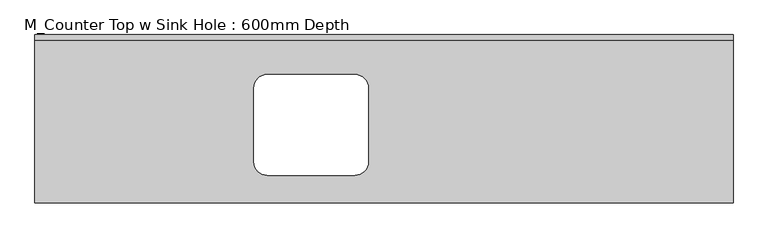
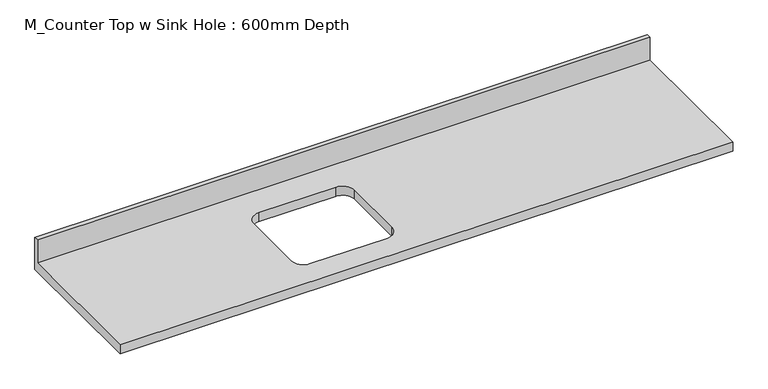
"""IFC4 building model written with IfcOpenShell, lengths in millimetres: furniture geometry, M_Counter Top w Sink Hole : 600mm Depth."""

from ifc_helpers import new_model, si_unit, frame, origin, place, context, project, spatial, polyline, circle_curve, source, transform, mapped, element, save
from ifc_brep_helpers import plane_surface, revolved_surface, advanced_brep


def m_counter_top_w_sink_hole_600mm_depth_1fb56bb9(model_context):
    return source(origin(), model_context, "Body", "AdvancedBrep", [
        advanced_brep(
        [(-1200.4622951, -625.0, 900.0), (1390.5377049, -625.0, 900.0), (1390.5377049, -19.05, 900.0), (-1200.4622951, -19.05, 900.0), (-337.3622951, -147.3, 900.0), (-13.5622951, -147.3, 900.0), (37.2377049, -198.1, 900.0), (37.2377049, -471.9, 900.0), (-13.5622951, -522.7, 900.0), (-337.3622951, -522.7, 900.0), (-388.1622951, -471.9, 900.0), (-388.1622951, -198.1, 900.0), (1390.5377049, 0.0, 860.0), (1390.5377049, -625.0, 860.0), (-1200.4622951, -625.0, 860.0), (-1200.4622951, 0.0, 860.0), (-13.5622951, -147.3, 860.0), (-337.3622951, -147.3, 860.0), (-388.1622951, -198.1, 860.0), (-388.1622951, -471.9, 860.0), (-337.3622951, -522.7, 860.0), (-13.5622951, -522.7, 860.0), (37.2377049, -471.9, 860.0), (37.2377049, -198.1, 860.0), (-1200.4622951, 0.0, 1001.6), (1390.5377049, 0.0, 1001.6), (-1200.4622951, -19.05, 1001.6), (1390.5377049, -19.05, 1001.6)],
        [
            (0, 1),
            (1, 2),
            (2, 3),
            (3, 0),
            (4, 5),
            (5, 6, circle_curve(frame((-13.5622951, -198.1, 900.0), z_axis=(0.0, 0.0, -1.0), x_axis=(1.0, 0.0, 0.0)), 50.8)),
            (6, 7),
            (7, 8, circle_curve(frame((-13.5622951, -471.9, 900.0), z_axis=(0.0, 0.0, -1.0), x_axis=(1.0, 0.0, 0.0)), 50.8)),
            (8, 9),
            (9, 10, circle_curve(frame((-337.3622951, -471.9, 900.0), z_axis=(0.0, 0.0, -1.0), x_axis=(1.0, 0.0, 0.0)), 50.8)),
            (10, 11),
            (11, 4, circle_curve(frame((-337.3622951, -198.1, 900.0), z_axis=(0.0, 0.0, -1.0), x_axis=(1.0, 0.0, 0.0)), 50.8)),
            (12, 13),
            (13, 14),
            (14, 15),
            (15, 12),
            (16, 17),
            (17, 18, circle_curve(frame((-337.3622951, -198.1, 860.0), z_axis=(0.0, 0.0, 1.0), x_axis=(1.0, 0.0, 0.0)), 50.8)),
            (18, 19),
            (19, 20, circle_curve(frame((-337.3622951, -471.9, 860.0), z_axis=(0.0, 0.0, 1.0), x_axis=(1.0, 0.0, 0.0)), 50.8)),
            (20, 21),
            (21, 22, circle_curve(frame((-13.5622951, -471.9, 860.0), z_axis=(0.0, 0.0, 1.0), x_axis=(1.0, 0.0, 0.0)), 50.8)),
            (22, 23),
            (23, 16, circle_curve(frame((-13.5622951, -198.1, 860.0), z_axis=(0.0, 0.0, 1.0), x_axis=(1.0, 0.0, 0.0)), 50.8)),
            (15, 24),
            (24, 25),
            (25, 12),
            (14, 0),
            (3, 26),
            (26, 24),
            (13, 1),
            (25, 27),
            (27, 2),
            (26, 27),
            (4, 17),
            (16, 5),
            (11, 18),
            (10, 19),
            (9, 20),
            (8, 21),
            (7, 22),
            (6, 23),
        ],
        [
            plane_surface(frame((-1200.4622951, 0.0, 900.0), z_axis=(0.0, 0.0, 1.0), x_axis=(-1.0, 0.0, 0.0))),
            plane_surface(frame((-1200.4622951, 0.0, 860.0), z_axis=(0.0, 0.0, -1.0), x_axis=(1.0, 0.0, 0.0))),
            plane_surface(frame((1390.5377049, 0.0, 900.0), z_axis=(0.0, 1.0, 0.0), x_axis=(0.0, 0.0, -1.0))),
            plane_surface(frame((-1200.4622951, 0.0, 900.0), z_axis=(-1.0, 0.0, 0.0), x_axis=(0.0, 0.0, -1.0))),
            plane_surface(frame((-1200.4622951, -625.0, 900.0), z_axis=(0.0, -1.0, 0.0), x_axis=(0.0, 0.0, -1.0))),
            plane_surface(frame((1390.5377049, -625.0, 900.0), z_axis=(1.0, 0.0, 0.0), x_axis=(0.0, 0.0, -1.0))),
            plane_surface(frame((-1200.4622951, 0.0, 1001.6), z_axis=(0.0, 0.0, 1.0), x_axis=(0.0, -1.0, 0.0))),
            plane_surface(frame((-1200.4622951, -19.05, 1001.6), z_axis=(0.0, -1.0, 0.0), x_axis=(0.0, 0.0, -1.0))),
            plane_surface(frame((-13.5622951, -147.3, 900.0), z_axis=(0.0, -1.0, 0.0), x_axis=(0.0, 0.0, -1.0))),
            revolved_surface(polyline([(-286.5622951, -198.1, 900.0), (-286.5622951, -198.1, 860.0)]), (-337.3622951, -198.1, 860.0), (0.0, 0.0, 1.0)),
            plane_surface(frame((-388.1622951, -198.1, 900.0), z_axis=(1.0, 0.0, 0.0), x_axis=(0.0, 0.0, -1.0))),
            revolved_surface(polyline([(-286.5622951, -471.9, 900.0), (-286.5622951, -471.9, 860.0)]), (-337.3622951, -471.9, 860.0), (0.0, 0.0, 1.0)),
            plane_surface(frame((-337.3622951, -522.7, 900.0), z_axis=(0.0, 1.0, 0.0), x_axis=(0.0, 0.0, -1.0))),
            revolved_surface(polyline([(37.2377049, -471.9, 900.0), (37.2377049, -471.9, 860.0)]), (-13.5622951, -471.9, 860.0), (0.0, 0.0, 1.0)),
            plane_surface(frame((37.2377049, -471.9, 900.0), z_axis=(-1.0, 0.0, 0.0), x_axis=(0.0, 0.0, -1.0))),
            revolved_surface(polyline([(37.2377049, -198.1, 900.0), (37.2377049, -198.1, 860.0)]), (-13.5622951, -198.1, 860.0), (0.0, 0.0, 1.0)),
        ],
        [
            (0, [[1, 2, 3, 4], [5, 6, 7, 8, 9, 10, 11, 12]]),
            (1, [[13, 14, 15, 16], [17, 18, 19, 20, 21, 22, 23, 24]]),
            (2, [[-16, 25, 26, 27]]),
            (3, [[-15, 28, -4, 29, 30, -25]]),
            (4, [[-1, -28, -14, 31]]),
            (5, [[-13, -27, 32, 33, -2, -31]]),
            (6, [[-30, 34, -32, -26]]),
            (7, [[-34, -29, -3, -33]]),
            (8, [[35, -17, 36, -5]]),
            (9, [[-35, -12, 37, -18]]),
            (10, [[-37, -11, 38, -19]]),
            (11, [[-38, -10, 39, -20]]),
            (12, [[-39, -9, 40, -21]]),
            (13, [[-40, -8, 41, -22]]),
            (14, [[-41, -7, 42, -23]]),
            (15, [[-36, -24, -42, -6]]),
        ],
    ),
    ])


if __name__ == "__main__":
    model = new_model("IFC4")
    model_context = context("Model", 3, world=origin())
    ifc_project = project(units=[si_unit("LENGTHUNIT", "METRE", prefix="MILLI")], contexts=[model_context])
    site = spatial("IfcSite", under=ifc_project)
    building = spatial("IfcBuilding", under=site)
    placement = place(None, origin())
    m_counter_top_w_sink_hole_600mm_depth_shape = m_counter_top_w_sink_hole_600mm_depth_1fb56bb9(model_context)
    element("IfcFurniture", 1, ObjectType="M_Counter Top w Sink Hole : 600mm Depth", at=placement, inside=building, context=model_context, shape_type="MappedRepresentation", body=[
        mapped(m_counter_top_w_sink_hole_600mm_depth_shape, transform((0.0, 0.0, 0.0), x_axis=(1.0, 0.0, 0.0), y_axis=(0.0, 1.0, 0.0), z_axis=(0.0, 0.0, 1.0))),
    ])
    save(model, "model.ifc")
